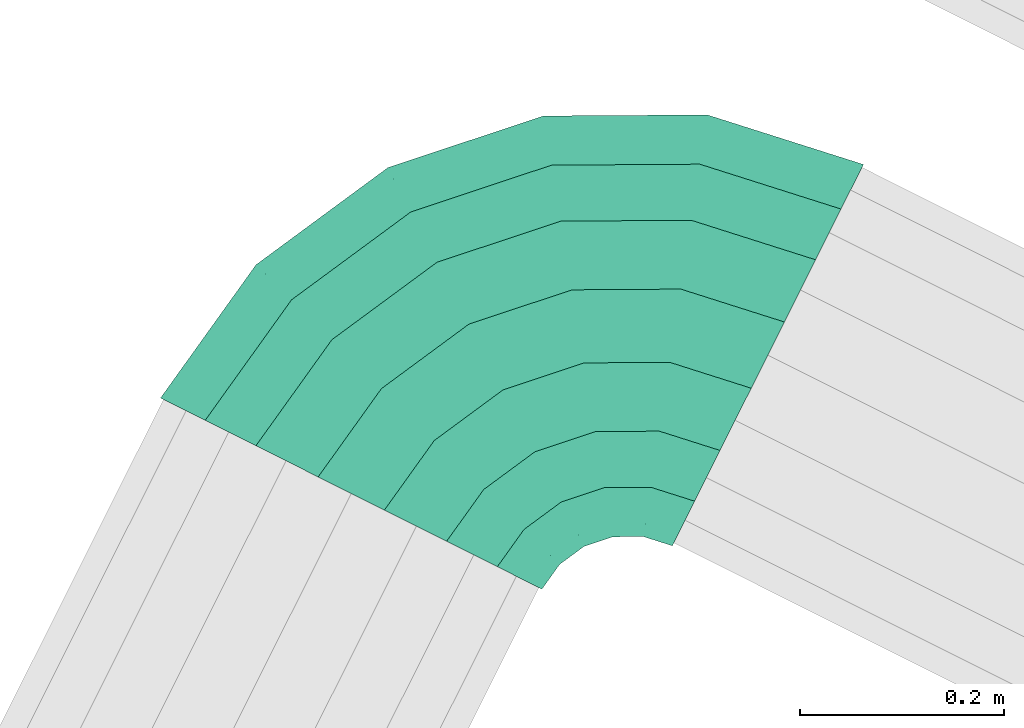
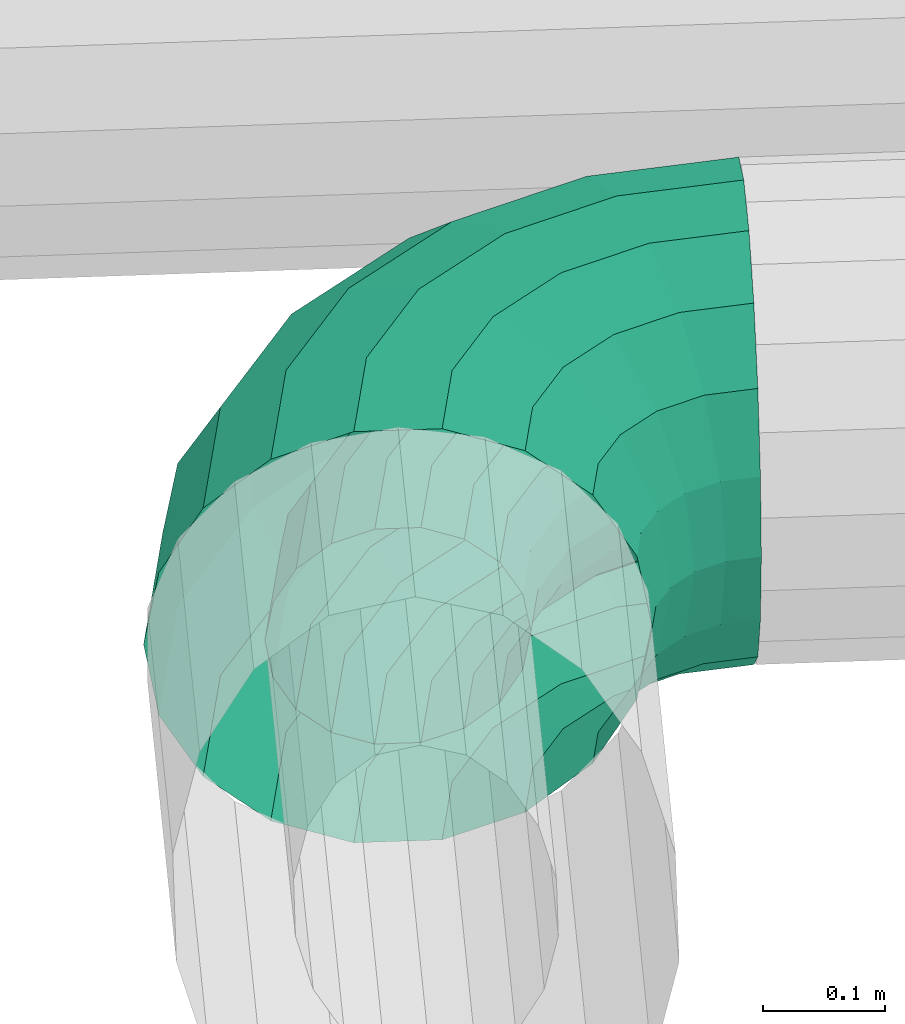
# One storey, part 143 of 152: 1 flow segment.
"""IFC2X3 building model written with IfcOpenShell, lengths in metres."""

from ifc_helpers import new_model, si_unit, derived_unit, direction, frame, origin, place, context, subcontext, project, spatial, face_set, surface_model, source, transform, mapped, material, type_object, type_shapes, element, save


model = new_model("IFC2X3")

# Units and contexts
model_context = context("Model", 3, precision=5.2338327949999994e-05, world=origin(), true_north=direction((0.0, 1.0)))
body_context = subcontext(model_context, "Body", "Model", "MODEL_VIEW")
ifc_project = project(units=[si_unit("LENGTHUNIT", "METRE"), si_unit("AREAUNIT", "SQUARE_METRE"), si_unit("VOLUMEUNIT", "CUBIC_METRE"), si_unit("MASSUNIT", "GRAM", prefix="KILO"), si_unit("PLANEANGLEUNIT", "RADIAN"), derived_unit("THERMALTRANSMITTANCEUNIT", [(si_unit("MASSUNIT", "GRAM", prefix="KILO"), 1), (si_unit("THERMODYNAMICTEMPERATUREUNIT", "KELVIN"), -1), (si_unit("TIMEUNIT", "SECOND"), -3)])], contexts=[model_context])

# Site, building, storey
site_placement = place(None, frame((0.0, 0.0, 0.0), z_axis=(0.0, 0.0, 1.0), x_axis=(0.8939966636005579, -0.4480736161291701, 0.0)))
site = spatial("IfcSite", under=ifc_project, at=site_placement, Name="Default", CompositionType="ELEMENT")
building_placement = place(site_placement, origin())
building = spatial("IfcBuilding", under=site, at=building_placement, CompositionType="ELEMENT")
storey_placement = place(building_placement, frame((0.0, 0.0, 2.7499999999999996)))
storey = spatial("IfcBuildingStorey", under=building, at=storey_placement, Name="1. Obergeschoss", CompositionType="ELEMENT", Elevation=2.7499999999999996)

# Flow segment
ifc_material = material(Name="IfcSurfaceStyle #9317")
distribution_element_type = type_object("IfcDistributionElementType", Name="Rohrbogen 226873:Rohrbogen 226873", material=ifc_material)
shared_shape = source(origin(), body_context, "Body", "SurfaceModel", [
    surface_model("IfcFaceBasedSurfaceModel", [(17.11504158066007, 11.372356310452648, 5.63564078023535), (17.11504158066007, 11.365749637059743, 5.598172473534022), (16.988980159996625, 11.345783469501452, 5.598172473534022), (16.986938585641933, 11.352066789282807, 5.63564078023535), (16.875258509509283, 11.287839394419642, 5.598172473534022), (16.871375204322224, 11.293184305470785, 5.635640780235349), (16.785008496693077, 11.197589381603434, 5.598172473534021), (16.779663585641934, 11.201472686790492, 5.635640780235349), (16.72706442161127, 11.08386773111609, 5.598172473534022), (16.720781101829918, 11.08590930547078, 5.635640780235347), (16.707098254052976, 10.957806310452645, 5.598172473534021), (16.700491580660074, 10.957806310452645, 5.635640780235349), (17.11504158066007, 11.346726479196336, 5.565223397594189), (16.9948586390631, 11.327691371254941, 5.565223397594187), (16.88644004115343, 11.272449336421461, 5.565223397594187), (16.800398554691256, 11.186407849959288, 5.565223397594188), (16.745156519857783, 11.077989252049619, 5.565223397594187), (16.726121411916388, 10.95780631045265, 5.565223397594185), (17.11504158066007, 11.317581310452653, 5.540767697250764), (17.00386499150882, 11.29997266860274, 5.540767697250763), (16.903571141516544, 11.248870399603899, 5.540767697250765), (16.823977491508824, 11.169276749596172, 5.540767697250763), (16.77287522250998, 11.068982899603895, 5.540767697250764), (16.755266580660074, 10.957806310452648, 5.540767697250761), (17.11504158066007, 11.281829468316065, 5.527755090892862), (17.01491291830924, 11.265970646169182, 5.527755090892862), (16.924585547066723, 11.219946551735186, 5.527755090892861), (16.85290133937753, 11.148262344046, 5.527755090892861), (16.80687724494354, 11.057934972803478, 5.527755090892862), (16.79101842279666, 10.957806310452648, 5.527755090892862), (17.115041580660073, 11.243783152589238, 5.527755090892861), (17.026669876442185, 11.229786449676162, 5.527755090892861), (16.94694861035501, 11.189166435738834, 5.527755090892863), (16.883681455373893, 11.125899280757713, 5.527755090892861), (16.84306144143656, 11.046178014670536, 5.527755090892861), (16.829064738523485, 10.957806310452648, 5.52775509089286), (17.11504158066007, 11.20803131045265, 5.540767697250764), (17.037717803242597, 11.195784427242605, 5.540767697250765), (16.967963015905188, 11.160242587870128, 5.540767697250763), (16.9126053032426, 11.10488487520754, 5.540767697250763), (16.877063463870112, 11.035130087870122, 5.540767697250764), (16.86481658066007, 10.957806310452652, 5.540767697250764), (17.115041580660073, 11.178886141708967, 5.565223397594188), (17.04672415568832, 11.168065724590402, 5.565223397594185), (16.9850941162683, 11.13666365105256, 5.565223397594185), (16.936184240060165, 11.08775377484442, 5.565223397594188), (16.90478216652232, 11.026123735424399, 5.565223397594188), (16.893961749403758, 10.95780631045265, 5.5652233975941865), (17.11504158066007, 11.159862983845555, 5.598172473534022), (17.052602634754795, 11.149973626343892, 5.598172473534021), (16.996275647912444, 11.12127359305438, 5.598172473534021), (16.951574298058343, 11.07657224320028, 5.59817247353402), (16.92287426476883, 11.020245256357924, 5.598172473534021), (16.912984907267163, 10.957806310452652, 5.598172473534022), (17.11504158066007, 11.153256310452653, 5.635640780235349), (17.054644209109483, 11.14369030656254, 5.635640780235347), (17.000158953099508, 11.115928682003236, 5.635640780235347), (16.956919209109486, 11.072688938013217, 5.635640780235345), (16.929157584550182, 11.018203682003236, 5.635640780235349), (16.919591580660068, 10.957806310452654, 5.635640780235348), (17.11504158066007, 11.15986298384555, 5.673109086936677), (17.052602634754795, 11.14997362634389, 5.673109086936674), (16.996275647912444, 11.121273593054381, 5.673109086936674), (16.95157429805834, 11.076572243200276, 5.673109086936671), (16.92287426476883, 11.020245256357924, 5.673109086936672), (16.912984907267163, 10.957806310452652, 5.673109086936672), (17.11504158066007, 11.178886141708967, 5.706058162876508), (17.04672415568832, 11.168065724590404, 5.7060581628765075), (16.985094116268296, 11.136663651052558, 5.706058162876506), (16.936184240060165, 11.08775377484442, 5.70605816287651), (16.90478216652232, 11.026123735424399, 5.706058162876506), (16.89396174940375, 10.957806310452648, 5.7060581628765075), (17.115041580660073, 11.208031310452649, 5.730513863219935), (17.0377178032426, 11.195784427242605, 5.730513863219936), (16.967963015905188, 11.160242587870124, 5.730513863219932), (16.9126053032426, 11.104884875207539, 5.730513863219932), (16.877063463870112, 11.035130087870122, 5.730513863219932), (16.864816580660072, 10.95780631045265, 5.730513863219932), (17.11504158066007, 11.243783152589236, 5.743526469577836), (17.02666987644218, 11.229786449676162, 5.7435264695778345), (16.946948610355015, 11.189166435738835, 5.743526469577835), (16.88368145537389, 11.12589928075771, 5.743526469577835), (16.843061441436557, 11.046178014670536, 5.743526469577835), (16.829064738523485, 10.957806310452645, 5.7435264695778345), (17.11504158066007, 11.28182946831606, 5.743526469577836), (17.01491291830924, 11.265970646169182, 5.743526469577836), (16.92458554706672, 11.219946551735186, 5.743526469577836), (16.85290133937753, 11.148262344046, 5.743526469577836), (16.80687724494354, 11.057934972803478, 5.743526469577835), (16.791018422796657, 10.957806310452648, 5.743526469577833), (17.11504158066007, 11.31758131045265, 5.730513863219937), (17.00386499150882, 11.299972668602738, 5.730513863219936), (16.903571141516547, 11.248870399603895, 5.730513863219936), (16.823977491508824, 11.169276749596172, 5.730513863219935), (16.772875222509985, 11.06898289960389, 5.730513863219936), (16.755266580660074, 10.957806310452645, 5.730513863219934), (17.11504158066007, 11.346726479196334, 5.706058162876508), (16.9948586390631, 11.327691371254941, 5.706058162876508), (16.88644004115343, 11.272449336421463, 5.706058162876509), (16.800398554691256, 11.186407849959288, 5.706058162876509), (16.745156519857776, 11.077989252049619, 5.7060581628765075), (16.72612141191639, 10.957806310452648, 5.706058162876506), (17.11504158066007, 11.365749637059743, 5.673109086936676), (16.988980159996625, 11.345783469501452, 5.673109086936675), (16.875258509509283, 11.287839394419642, 5.673109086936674), (16.78500849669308, 11.197589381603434, 5.673109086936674), (16.72706442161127, 11.08386773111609, 5.673109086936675), (16.707098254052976, 10.957806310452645, 5.673109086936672), (17.11504158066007, 11.472356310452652, 5.63564078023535), (17.11504158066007, 11.459718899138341, 5.563970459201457), (16.959942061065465, 11.435153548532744, 5.563970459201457), (16.956036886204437, 11.44717244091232, 5.635640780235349), (16.820024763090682, 11.363862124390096, 5.563970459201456), (16.812596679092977, 11.37408600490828, 5.635640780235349), (16.708985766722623, 11.252823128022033, 5.563970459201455), (16.698761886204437, 11.26025121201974, 5.635640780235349), (16.637694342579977, 11.11290583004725, 5.563970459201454), (16.625675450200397, 11.11681100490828, 5.635640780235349), (16.61312899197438, 10.957806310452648, 5.563970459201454), (16.600491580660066, 10.957806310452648, 5.635640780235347), (17.11504158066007, 11.423330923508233, 5.500944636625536), (16.97118656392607, 11.400546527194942, 5.500944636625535), (16.841413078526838, 11.334423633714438, 5.500944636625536), (16.738424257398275, 11.23143481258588, 5.500944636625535), (16.67230136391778, 11.101661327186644, 5.500944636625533), (16.649516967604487, 10.957806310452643, 5.500944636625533), (17.11504158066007, 11.367581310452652, 5.45416515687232), (16.988414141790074, 11.347525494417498, 5.454165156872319), (16.87418187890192, 11.289321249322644, 5.4541651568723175), (16.783526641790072, 11.198666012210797, 5.4541651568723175), (16.725322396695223, 11.08443374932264, 5.4541651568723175), (16.705266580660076, 10.957806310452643, 5.454165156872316), (17.115041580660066, 11.299194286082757, 5.429274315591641), (17.0095468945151, 11.282485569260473, 5.429274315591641), (16.914378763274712, 11.233994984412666, 5.42927431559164), (16.838852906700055, 11.15846912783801, 5.429274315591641), (16.790362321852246, 11.063300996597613, 5.429274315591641), (16.773653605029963, 10.95780631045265, 5.4292743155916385), (17.11504158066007, 11.226418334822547, 5.429274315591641), (17.032035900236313, 11.213271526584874, 5.42927431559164), (16.95715539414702, 11.175118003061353, 5.429274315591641), (16.897729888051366, 11.115692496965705, 5.429274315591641), (16.859576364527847, 11.040811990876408, 5.429274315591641), (16.846429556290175, 10.957806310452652, 5.42927431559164), (17.115041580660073, 11.158031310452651, 5.45416515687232), (17.053168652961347, 11.14823160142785, 5.4541651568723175), (16.99735227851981, 11.11979173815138, 5.4541651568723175), (16.953056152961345, 11.075495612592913, 5.454165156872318), (16.924616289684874, 11.019679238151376, 5.4541651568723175), (16.914816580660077, 10.957806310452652, 5.454165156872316), (17.11504158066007, 11.102281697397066, 5.500944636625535), (17.07039623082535, 11.095210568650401, 5.500944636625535), (17.03012107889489, 11.074689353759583, 5.500944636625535), (16.998158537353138, 11.042726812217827, 5.5009446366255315), (16.977637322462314, 11.002451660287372, 5.500944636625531), (16.970566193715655, 10.95780631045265, 5.5009446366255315), (17.115041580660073, 11.065893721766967, 5.563970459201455), (17.081640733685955, 11.060603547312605, 5.563970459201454), (17.05150939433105, 11.045250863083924, 5.563970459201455), (17.0275970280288, 11.021338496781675, 5.563970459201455), (17.01224434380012, 10.99120715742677, 5.563970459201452), (17.006954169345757, 10.95780631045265, 5.563970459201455), (17.11504158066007, 11.053256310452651, 5.635640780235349), (17.08554590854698, 11.048584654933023, 5.635640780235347), (17.058937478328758, 11.035026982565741, 5.635640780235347), (17.03782090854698, 11.013910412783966, 5.635640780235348), (17.024263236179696, 10.987301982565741, 5.635640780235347), (17.01959158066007, 10.95780631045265, 5.635640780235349), (17.11504158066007, 11.06589372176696, 5.707311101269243), (17.08164073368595, 11.060603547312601, 5.707311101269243), (17.051509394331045, 11.045250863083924, 5.707311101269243), (17.027597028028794, 11.021338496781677, 5.707311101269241), (17.01224434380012, 10.991207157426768, 5.707311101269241), (17.00695416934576, 10.95780631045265, 5.707311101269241), (17.11504158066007, 11.10228169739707, 5.7703369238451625), (17.07039623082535, 11.095210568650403, 5.7703369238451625), (17.030121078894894, 11.074689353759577, 5.770336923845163), (16.998158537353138, 11.042726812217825, 5.770336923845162), (16.977637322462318, 11.00245166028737, 5.77033692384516), (16.97056619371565, 10.957806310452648, 5.770336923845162), (17.11504158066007, 11.15803131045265, 5.817116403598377), (17.053168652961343, 11.148231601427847, 5.817116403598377), (16.997352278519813, 11.119791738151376, 5.817116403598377), (16.95305615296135, 11.075495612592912, 5.817116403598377), (16.924616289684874, 11.019679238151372, 5.817116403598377), (16.914816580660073, 10.957806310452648, 5.8171164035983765), (17.11504158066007, 11.226418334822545, 5.842007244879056), (17.032035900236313, 11.213271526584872, 5.842007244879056), (16.957155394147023, 11.175118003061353, 5.842007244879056), (16.897729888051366, 11.115692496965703, 5.842007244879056), (16.859576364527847, 11.040811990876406, 5.8420072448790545), (16.846429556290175, 10.95780631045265, 5.842007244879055), (17.11504158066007, 11.299194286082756, 5.842007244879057), (17.009546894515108, 11.282485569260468, 5.842007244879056), (16.914378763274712, 11.233994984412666, 5.842007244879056), (16.83885290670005, 11.15846912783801, 5.842007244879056), (16.790362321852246, 11.06330099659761, 5.842007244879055), (16.773653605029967, 10.957806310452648, 5.8420072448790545), (17.115041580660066, 11.367581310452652, 5.817116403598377), (16.988414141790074, 11.347525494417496, 5.8171164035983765), (16.87418187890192, 11.289321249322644, 5.817116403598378), (16.783526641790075, 11.198666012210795, 5.817116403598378), (16.725322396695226, 11.08443374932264, 5.817116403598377), (16.705266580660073, 10.957806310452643, 5.817116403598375), (17.11504158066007, 11.423330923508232, 5.770336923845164), (16.97118656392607, 11.400546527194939, 5.770336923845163), (16.841413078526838, 11.334423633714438, 5.770336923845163), (16.73842425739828, 11.231434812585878, 5.7703369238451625), (16.672301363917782, 11.101661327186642, 5.770336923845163), (16.64951696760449, 10.957806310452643, 5.770336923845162), (17.115041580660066, 11.45971889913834, 5.7073111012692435), (16.959942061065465, 11.435153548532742, 5.7073111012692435), (16.820024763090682, 11.363862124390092, 5.7073111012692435), (16.708985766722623, 11.252823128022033, 5.707311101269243), (16.63769434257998, 11.112905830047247, 5.707311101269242), (16.613128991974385, 10.957806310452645, 5.707311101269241)], [face_set([[[0, 1, 2, 3]], [[3, 2, 4, 5]], [[5, 4, 6, 7]], [[7, 6, 8, 9]], [[9, 8, 10, 11]], [[1, 12, 13, 2]], [[2, 13, 14, 4]], [[4, 14, 15, 6]], [[6, 15, 16, 8]], [[8, 16, 17, 10]], [[12, 18, 19, 13]], [[13, 19, 20, 14]], [[14, 20, 21, 15]], [[15, 21, 22, 16]], [[16, 22, 23, 17]], [[18, 24, 25, 19]], [[19, 25, 26, 20]], [[20, 26, 27, 21]], [[21, 27, 28, 22]], [[22, 28, 29, 23]], [[24, 30, 31, 25]], [[25, 31, 32, 26]], [[26, 32, 33, 27]], [[27, 33, 34, 28]], [[28, 34, 35, 29]], [[30, 36, 37, 31]], [[31, 37, 38, 32]], [[32, 38, 39, 33]], [[33, 39, 40, 34]], [[34, 40, 41, 35]], [[36, 42, 43, 37]], [[37, 43, 44, 38]], [[38, 44, 45, 39]], [[39, 45, 46, 40]], [[40, 46, 47, 41]], [[42, 48, 49, 43]], [[43, 49, 50, 44]], [[44, 50, 51, 45]], [[45, 51, 52, 46]], [[46, 52, 53, 47]], [[48, 54, 55, 49]], [[49, 55, 56, 50]], [[50, 56, 57, 51]], [[51, 57, 58, 52]], [[52, 58, 59, 53]], [[54, 60, 61, 55]], [[55, 61, 62, 56]], [[56, 62, 63, 57]], [[57, 63, 64, 58]], [[58, 64, 65, 59]], [[60, 66, 67, 61]], [[61, 67, 68, 62]], [[62, 68, 69, 63]], [[63, 69, 70, 64]], [[64, 70, 71, 65]], [[66, 72, 73, 67]], [[67, 73, 74, 68]], [[68, 74, 75, 69]], [[69, 75, 76, 70]], [[70, 76, 77, 71]], [[72, 78, 79, 73]], [[73, 79, 80, 74]], [[74, 80, 81, 75]], [[75, 81, 82, 76]], [[76, 82, 83, 77]], [[78, 84, 85, 79]], [[79, 85, 86, 80]], [[80, 86, 87, 81]], [[81, 87, 88, 82]], [[82, 88, 89, 83]], [[84, 90, 91, 85]], [[85, 91, 92, 86]], [[86, 92, 93, 87]], [[87, 93, 94, 88]], [[88, 94, 95, 89]], [[90, 96, 97, 91]], [[91, 97, 98, 92]], [[92, 98, 99, 93]], [[93, 99, 100, 94]], [[94, 100, 101, 95]], [[96, 102, 103, 97]], [[97, 103, 104, 98]], [[98, 104, 105, 99]], [[99, 105, 106, 100]], [[100, 106, 107, 101]], [[102, 0, 3, 103]], [[103, 3, 5, 104]], [[104, 5, 7, 105]], [[105, 7, 9, 106]], [[106, 9, 11, 107]], [[108, 109, 110, 111]], [[111, 110, 112, 113]], [[113, 112, 114, 115]], [[115, 114, 116, 117]], [[117, 116, 118, 119]], [[109, 120, 121, 110]], [[110, 121, 122, 112]], [[112, 122, 123, 114]], [[114, 123, 124, 116]], [[116, 124, 125, 118]], [[120, 126, 127, 121]], [[121, 127, 128, 122]], [[122, 128, 129, 123]], [[123, 129, 130, 124]], [[124, 130, 131, 125]], [[126, 132, 133, 127]], [[127, 133, 134, 128]], [[128, 134, 135, 129]], [[129, 135, 136, 130]], [[130, 136, 137, 131]], [[132, 138, 139, 133]], [[133, 139, 140, 134]], [[134, 140, 141, 135]], [[135, 141, 142, 136]], [[136, 142, 143, 137]], [[138, 144, 145, 139]], [[139, 145, 146, 140]], [[140, 146, 147, 141]], [[141, 147, 148, 142]], [[142, 148, 149, 143]], [[144, 150, 151, 145]], [[145, 151, 152, 146]], [[146, 152, 153, 147]], [[147, 153, 154, 148]], [[148, 154, 155, 149]], [[150, 156, 157, 151]], [[151, 157, 158, 152]], [[152, 158, 159, 153]], [[153, 159, 160, 154]], [[154, 160, 161, 155]], [[156, 162, 163, 157]], [[157, 163, 164, 158]], [[158, 164, 165, 159]], [[159, 165, 166, 160]], [[160, 166, 167, 161]], [[162, 168, 169, 163]], [[163, 169, 170, 164]], [[164, 170, 171, 165]], [[165, 171, 172, 166]], [[166, 172, 173, 167]], [[168, 174, 175, 169]], [[169, 175, 176, 170]], [[170, 176, 177, 171]], [[171, 177, 178, 172]], [[172, 178, 179, 173]], [[174, 180, 181, 175]], [[175, 181, 182, 176]], [[176, 182, 183, 177]], [[177, 183, 184, 178]], [[178, 184, 185, 179]], [[180, 186, 187, 181]], [[181, 187, 188, 182]], [[182, 188, 189, 183]], [[183, 189, 190, 184]], [[184, 190, 191, 185]], [[186, 192, 193, 187]], [[187, 193, 194, 188]], [[188, 194, 195, 189]], [[189, 195, 196, 190]], [[190, 196, 197, 191]], [[192, 198, 199, 193]], [[193, 199, 200, 194]], [[194, 200, 201, 195]], [[195, 201, 202, 196]], [[196, 202, 203, 197]], [[198, 204, 205, 199]], [[199, 205, 206, 200]], [[200, 206, 207, 201]], [[201, 207, 208, 202]], [[202, 208, 209, 203]], [[204, 210, 211, 205]], [[205, 211, 212, 206]], [[206, 212, 213, 207]], [[207, 213, 214, 208]], [[208, 214, 215, 209]], [[210, 108, 111, 211]], [[211, 111, 113, 212]], [[212, 113, 115, 213]], [[213, 115, 117, 214]], [[214, 117, 119, 215]]])]),
])
type_shapes(distribution_element_type, [shared_shape])
flow_segment_placement = place(storey_placement, frame((0.0, 0.0, -2.7499999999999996)))
element("IfcFlowSegment", 1, at=flow_segment_placement, inside=storey, type_object=distribution_element_type, material=ifc_material, Name="Rohrbogen", ObjectType="Rohrbogen", context=body_context, shape_type="MappedRepresentation", body=[
    mapped(shared_shape, transform((0.0, 0.0, 0.0), scale=1.0)),
])

save(model, "model.ifc")
